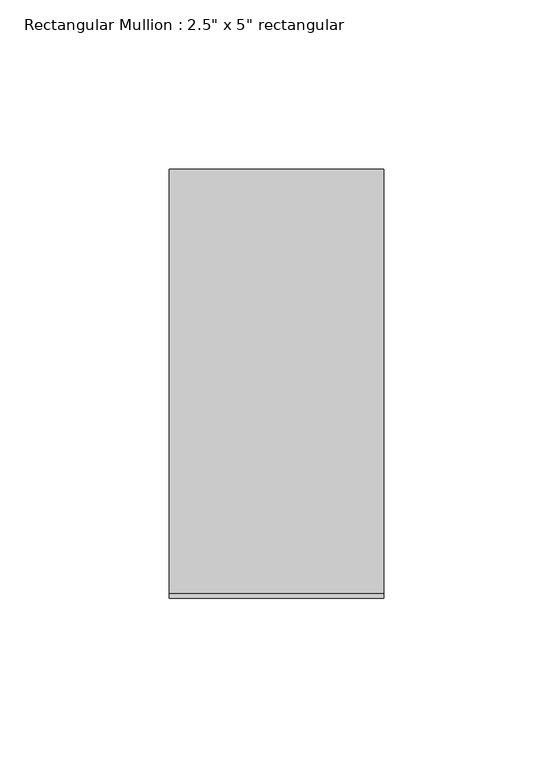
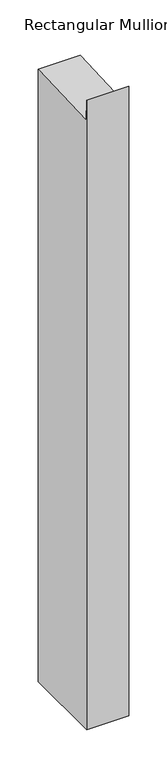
"""IFC4 building model written with IfcOpenShell, lengths in millimetres: member geometry."""

from ifc_helpers import new_model, si_unit, frame, origin, place, context, project, spatial, polyline, outline, extrude, source, transform, mapped, element, save


def member_66924d1d(model_context):
    return source(origin(), model_context, "Body", "SweptSolid", [
        extrude(outline(polyline([(-63.5, 30.354381), (-62.043738, -2.7592318), (63.5, 2.7618988), (63.5, -976.0678627), (-63.5, -976.0678627), (-63.5, 30.354381)])), frame((-63.5, 0.0, 0.0), z_axis=(1.0, 0.0, 0.0), x_axis=(0.0, 1.0, 0.0)), (0.0, 0.0, 1.0), 63.5),
    ])


if __name__ == "__main__":
    model = new_model("IFC4")
    model_context = context("Model", 3, world=origin())
    ifc_project = project(units=[si_unit("LENGTHUNIT", "METRE", prefix="MILLI")], contexts=[model_context])
    site = spatial("IfcSite", under=ifc_project)
    building = spatial("IfcBuilding", under=site)
    placement = place(None, origin())
    member_shape = member_66924d1d(model_context)
    element("IfcMember", 1, ObjectType="Rectangular Mullion : 2.5\" x 5\" rectangular", at=placement, inside=building, context=model_context, shape_type="MappedRepresentation", body=[
        mapped(member_shape, transform((0.0, 0.0, 0.0), x_axis=(1.0, 0.0, 0.0), y_axis=(0.0, 1.0, 0.0), z_axis=(0.0, 0.0, 1.0))),
    ])
    save(model, "model.ifc")
